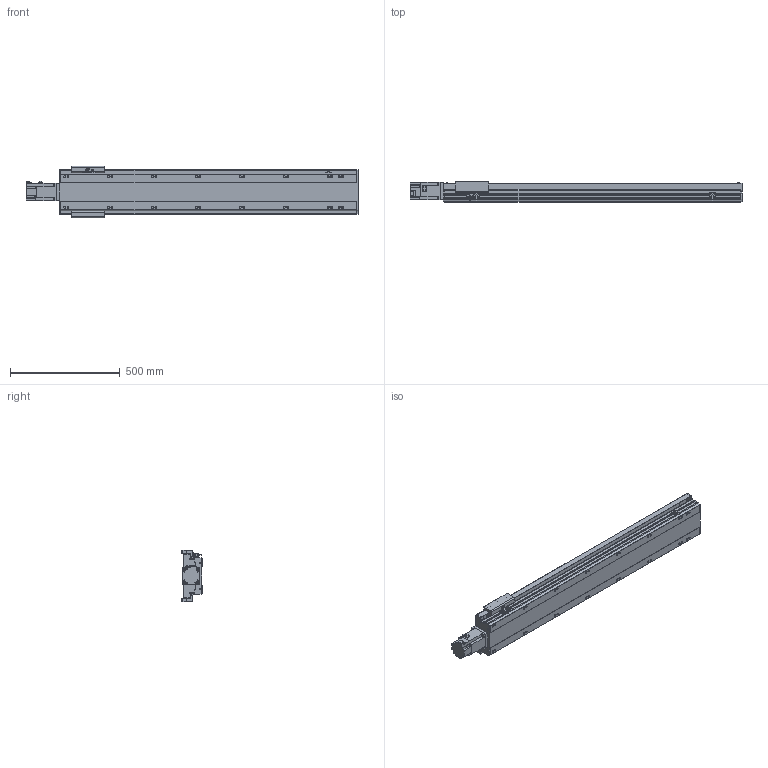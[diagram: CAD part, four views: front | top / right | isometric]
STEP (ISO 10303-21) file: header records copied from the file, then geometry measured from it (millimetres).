
FILE_DESCRIPTION(/* description */ ('STEP AP214'),/* implementation_level */ '2;1');
FILE_NAME(/* name */ 'PSM170-L10-S1100-BC-T75-C1-N(0)',/* time_stamp */ '2022-06-29T08:54:36+02:00',/* author */ ('License CC BY-ND 4.0'),/* organization */ ('CADENAS'),/* preprocessor_version */ 'ST-DEVELOPER v18.102',/* originating_system */ 'PARTsolutions',/* authorisation */ ' ');
FILE_SCHEMA (('AUTOMOTIVE_DESIGN {1 0 10303 214 3 1 1}'));
Length unit declared in the file: millimetre
Products named in the file (8): PSM170-L10-S1100-BC-T75-C1-N(0); PSM-Sensor; PSM140-S100-342.5; T75-p1; PSM170_body2; PSM170_body3; PSM170-S1100_body1; PSM170-L10-S1100-BC-T75-C1-N(0)_dummy
Assembly tree (11 placements, depth 2):
  PSM170-L10-S1100-BC-T75-C1-N(0)
    PSM-Sensor  x3
    PSM140-S100-342.5  x3
    T75-p1
    PSM170_body2
    PSM170_body3
    PSM170-S1100_body1
    PSM170-L10-S1100-BC-T75-C1-N(0)_dummy
Bounding box: 1511.3 x 92 x 233 mm (x, y, z)
Volume: 8933644.4 mm3; surface area: 1726536.4 mm2
Topology: 10 solids, 10 shells, 1115 faces, 2986 edges, 1943 vertices
Faces by surface type: plane 676, cylinder 353, cone 72, torus 14
Full cylindrical faces by diameter (mm): 2.8 x3, 3.08 x1, 4.134 x4, 4.5 x12, 4.6 x3, 5.7 x2, 6 x9, 6.647 x24, 7 x8, 7.6 x4, 8 x8, 8.5 x16, 10 x4, 14 x16, 45 x1, 70 x1
Entity records: 29598 total; most frequent: CARTESIAN_POINT 5558, DIRECTION 4900, ORIENTED_EDGE 4716, EDGE_CURVE 2358, AXIS2_PLACEMENT_3D 1673, VERTEX_POINT 1658, LINE 1554, VECTOR 1554
